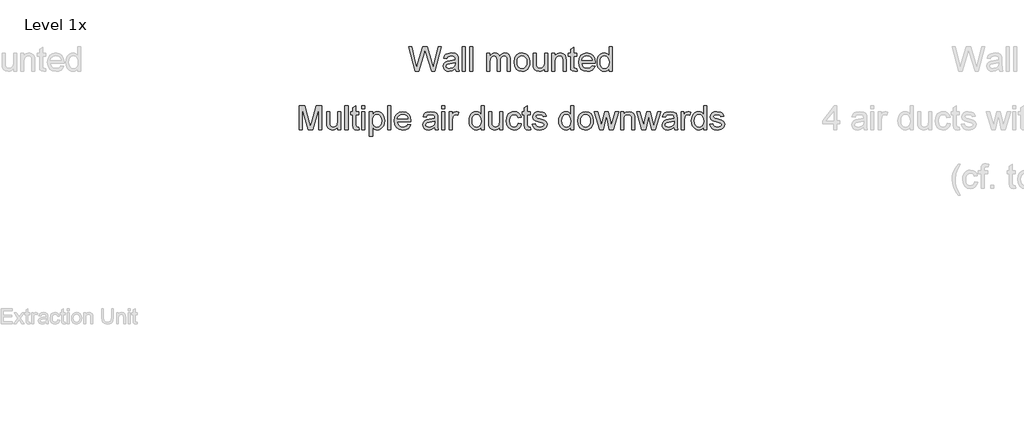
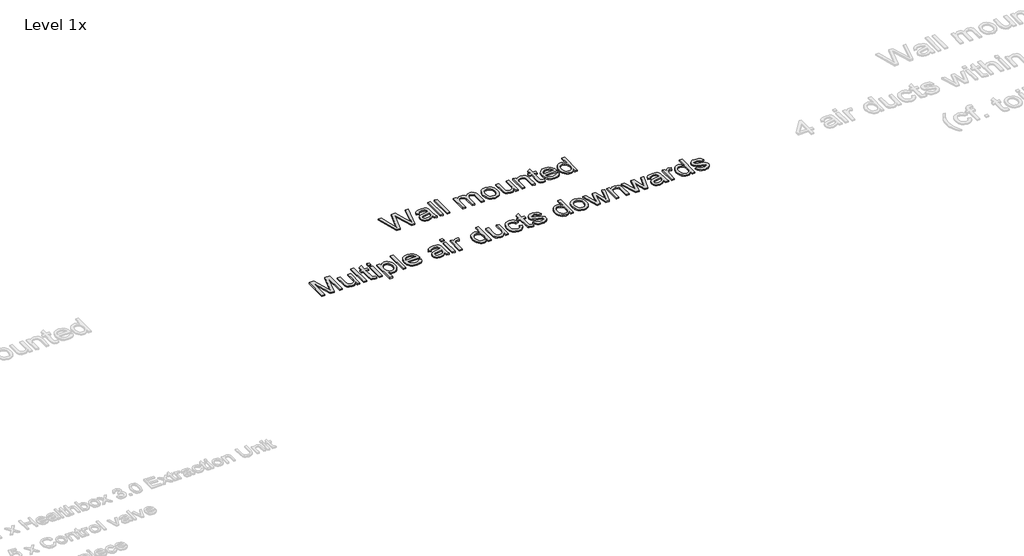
# One storey, part 7 of 7: 1 proxy.
"""IFC4 building model written with IfcOpenShell, lengths in millimetres."""

import ifcopenshell
import ifcopenshell.guid

model = None  # the IFC model being written
_history = None  # IfcOwnerHistory: only IFC2X3 demands one
_inside = {}  # id of a spatial element -> (the spatial element, [elements in it])
_under = {}  # id of a project, library or spatial element -> (it, [spatial elements below it])
_declared = {}  # id of a project -> (the project, [libraries it declares])
_typed = {}  # id of a type object -> (the type object, [elements of that type])
_made_of = {}  # id of a material, layer set ... -> (it, [elements and type objects made of it])


def new_model(schema):
    """Start an empty IFC model of exactly this schema.

    Asked for "IFC4X3", IfcOpenShell would pick the latest addendum, in which some entities
    have other attributes; the version numbers below select the first issue.
    IFC2X3 requires an IfcOwnerHistory on every rooted entity: one is made here for all.
    """
    global model, _history
    if schema == "IFC4X3":
        model = ifcopenshell.file(schema_version=(4, 3, 0, 0))
    else:
        model = ifcopenshell.file(schema=schema)
    _inside.clear()
    _under.clear()
    _declared.clear()
    _typed.clear()
    _made_of.clear()
    _history = None
    if model.schema == "IFC2X3":
        org = make("IfcOrganization", Name="unknown")
        user = make(
            "IfcPersonAndOrganization",
            ThePerson=make("IfcPerson", FamilyName="unknown"),
            TheOrganization=org,
        )
        app = make(
            "IfcApplication",
            ApplicationDeveloper=org,
            Version="unknown",
            ApplicationFullName="unknown",
            ApplicationIdentifier="unknown",
        )
        _history = make(
            "IfcOwnerHistory",
            OwningUser=user,
            OwningApplication=app,
            ChangeAction="ADDED",
            CreationDate=0,
        )
    return model


def make(cls, **values):
    """One entity of the class cls with the attributes given. An attribute that is None is left unset."""
    return model.create_entity(
        cls, **{name: value for name, value in values.items() if value is not None}
    )


def rooted(cls, **values):
    """An entity with a GlobalId (a new one), such as an element, a storey or a relation."""
    return make(cls, GlobalId=ifcopenshell.guid.new(), OwnerHistory=_history, **values)


def si_unit(unit_type, name, prefix=None):
    """IfcSIUnit, for example si_unit("LENGTHUNIT", "METRE", prefix="MILLI")."""
    return make("IfcSIUnit", UnitType=unit_type, Prefix=prefix, Name=name)


def assignment(units):
    """IfcUnitAssignment: the units of a project."""
    return None if units is None else make("IfcUnitAssignment", Units=units)


def point(xyz):
    """IfcCartesianPoint."""
    return None if xyz is None else make("IfcCartesianPoint", Coordinates=xyz)


def direction(xyz):
    """IfcDirection."""
    return None if xyz is None else make("IfcDirection", DirectionRatios=xyz)


def frame(location, z_axis=None, x_axis=None):
    """IfcAxis2Placement3D, a coordinate frame: its origin and axes. An axis left out is left unset."""
    return make(
        "IfcAxis2Placement3D",
        Location=point(location),
        Axis=direction(z_axis),
        RefDirection=direction(x_axis),
    )


def origin():
    """The frame at (0, 0, 0) with its axes left unset."""
    return frame((0.0, 0.0, 0.0))


def origin_with_axes():
    """The frame at (0, 0, 0) with the z axis (0, 0, 1) and the x axis (1, 0, 0) written out."""
    return frame((0.0, 0.0, 0.0), z_axis=(0.0, 0.0, 1.0), x_axis=(1.0, 0.0, 0.0))


def place(relative_to, where):
    """IfcLocalPlacement: puts the frame where relative to a parent placement (None: the world)."""
    return make(
        "IfcLocalPlacement", PlacementRelTo=relative_to, RelativePlacement=where
    )


def context(
    kind, dimensions, precision=None, world=None, true_north=None, identifier=None
):
    """IfcGeometricRepresentationContext, for example the 3D "Model" context."""
    return make(
        "IfcGeometricRepresentationContext",
        ContextIdentifier=identifier,
        ContextType=kind,
        CoordinateSpaceDimension=dimensions,
        Precision=precision,
        WorldCoordinateSystem=world,
        TrueNorth=true_north,
    )


def project(units=None, contexts=None):
    """IfcProject with its units and contexts."""
    return rooted(
        "IfcProject",
        Name="project",
        RepresentationContexts=contexts,
        UnitsInContext=assignment(units),
    )


def spatial(cls, under=None, at=None, **own):
    """A site, building, storey or space (cls), placed at a placement, below another one or the project."""
    s = rooted(cls, ObjectPlacement=at, **own)
    if under is not None:
        _under.setdefault(under.id(), (under, []))[1].append(s)
    return s


def polyline(points):
    """IfcPolyline through the points."""
    return make("IfcPolyline", Points=[point(p) for p in points])


def outline(outer, holes=None, kind="AREA"):
    """IfcArbitraryClosedProfileDef: a profile drawn as a closed curve; with holes, ...WithVoids."""
    if holes is None:
        return make("IfcArbitraryClosedProfileDef", ProfileType=kind, OuterCurve=outer)
    return make(
        "IfcArbitraryProfileDefWithVoids",
        ProfileType=kind,
        OuterCurve=outer,
        InnerCurves=holes,
    )


def extrude(swept, where, along, depth):
    """IfcExtrudedAreaSolid: the profile swept, set in the frame where, extruded along a direction by depth."""
    return make(
        "IfcExtrudedAreaSolid",
        SweptArea=swept,
        Position=where,
        ExtrudedDirection=direction(along),
        Depth=depth,
    )


def shape(context_of_items, identifier, shape_type, items):
    """IfcShapeRepresentation: the items that make up one representation, for example the "Body"."""
    return make(
        "IfcShapeRepresentation",
        ContextOfItems=context_of_items,
        RepresentationIdentifier=identifier,
        RepresentationType=shape_type,
        Items=items,
    )


def made_of(thing, what):
    """Note that an element or type object is made of a material, layer set ...; save() writes the relation."""
    if what is not None:
        _made_of.setdefault(what.id(), (what, []))[1].append(thing)
    return thing


def element(
    cls,
    number,
    at=None,
    inside=None,
    cuts=None,
    type_object=None,
    material=None,
    context=None,
    identifier="Body",
    shape_type=None,
    held_by="IfcProductDefinitionShape",
    body=None,
    shapes=None,
    **own,
):
    """One element of the class cls, such as IfcWall. Its Tag is "e" and its number.

    at: its placement. inside: the storey or other place that contains it. cuts: it is an
    opening in that element (IfcRelVoidsElement). A single representation is given by context,
    identifier, shape_type and body (its items); several are given by shapes. held_by: the class
    of the entity that holds the representations. save() writes the other relations.
    """
    e = rooted(cls, Tag="e%d" % number, ObjectPlacement=at, **own)
    if body is not None:
        shapes = [shape(context, identifier, shape_type, body)]
    if shapes is not None:
        e.Representation = make(held_by, Representations=shapes)
    if inside is not None:
        _inside.setdefault(inside.id(), (inside, []))[1].append(e)
    if cuts is not None:
        rooted(
            "IfcRelVoidsElement", RelatingBuildingElement=cuts, RelatedOpeningElement=e
        )
    if type_object is not None:
        _typed.setdefault(type_object.id(), (type_object, []))[1].append(e)
    return made_of(e, material)


def aggregate(whole, parts):
    """IfcRelAggregates: a whole, such as a stair, and the parts it consists of."""
    return rooted("IfcRelAggregates", RelatingObject=whole, RelatedObjects=parts)


def save(model, path):
    """Write the relations noted so far, then the file.

    IfcRelAggregates (storeys below a building ...), IfcRelContainedInSpatialStructure (elements
    in a storey), IfcRelDefinesByType, IfcRelAssociatesMaterial and IfcRelDeclares: one each for
    every whole, place, type object, material and project.
    """
    for whole, parts in _under.values():
        aggregate(whole, parts)
    for where, things in _inside.values():
        rooted(
            "IfcRelContainedInSpatialStructure",
            RelatedElements=things,
            RelatingStructure=where,
        )
    for kind, things in _typed.values():
        rooted("IfcRelDefinesByType", RelatedObjects=things, RelatingType=kind)
    for what, things in _made_of.values():
        rooted("IfcRelAssociatesMaterial", RelatedObjects=things, RelatingMaterial=what)
    for by, libraries in _declared.values():
        rooted("IfcRelDeclares", RelatingContext=by, RelatedDefinitions=libraries)
    model.write(path)


model = new_model("IFC4")

# Units and contexts
model_context = context("Model", 3, world=origin())
ifc_project = project(units=[si_unit("LENGTHUNIT", "METRE", prefix="MILLI")], contexts=[model_context])

# Site, building, storey
site = spatial("IfcSite", under=ifc_project)
building = spatial("IfcBuilding", under=site)
storey = spatial("IfcBuildingStorey", under=building, Name="Level 1x", Elevation=0.0)

# Proxy
placement = place(None, origin())
element("IfcBuildingElementProxy", 1, Name="190mm Arial", ObjectType="190mm Arial", at=placement, inside=storey, context=model_context, shape_type="SweptSolid", body=[
    extrude(outline(polyline([(-7130.0854469, 313.1270961), (-7182.1358442, 503.9940853), (-7157.5318963, 503.9940853), (-7127.3361422, 378.5512301), (-7118.016465, 339.8279713), (-7108.0444103, 374.077785), (-7070.2065209, 503.9940853), (-7034.7451491, 503.9940853), (-7007.2521013, 409.8187471), (-6986.7954098, 339.8279713), (-6977.7553229, 377.4328688), (-6947.2799785, 503.9940853), (-6922.6760306, 503.9940853), (-6974.7730262, 313.1270961), (-7000.2623434, 313.1270961), (-7046.0219585, 460.377996), (-7052.4059374, 480.9278842), (-7059.5820888, 456.1841412), (-7101.2876444, 313.1270961), (-7130.0854469, 313.1270961)])), origin_with_axes(), (0.0, 0.0, 1.0), 10.0),
    extrude(outline(polyline([(-6812.3310524, 331.0208763), (-6835.4671511, 314.8512363), (-6861.0263659, 310.1447993), (-6880.9646503, 312.9756513), (-6895.6722659, 321.4682072), (-6904.7414768, 334.3643105), (-6907.7645471, 350.4058049), (-6903.1979052, 369.2781512), (-6891.1988208, 382.9780767), (-6874.4932994, 390.8066056), (-6853.8502144, 394.3946813), (-6812.4708476, 402.5959973), (-6812.3310524, 407.9082133), (-6813.9736455, 418.5559445), (-6818.9014249, 425.5224032), (-6829.9219432, 430.6948241), (-6845.2761114, 432.4189644), (-6869.4140754, 427.8290233), (-6876.1824909, 421.4625188), (-6880.9238767, 411.5428874), (-6904.7822504, 414.5251841), (-6894.4607079, 437.8243771), (-6885.6652625, 445.6645556), (-6873.6778277, 451.4777043), (-6842.2006179, 456.277338), (-6813.2863193, 452.0368849), (-6796.953585, 441.3891537), (-6789.6376384, 425.1962145), (-6788.4726788, 404.3201376), (-6788.4726788, 374.6369656), (-6787.2611207, 333.1877012), (-6782.5080854, 313.1270961), (-6806.366459, 313.1270961), (-6812.3310524, 331.0208763)]), holes=[polyline([(-6812.3310524, 378.7376236), (-6850.8213193, 371.421677), (-6871.3479084, 367.554011), (-6880.6442864, 361.2632288), (-6883.9061734, 352.0833468), (-6882.1296099, 344.9887425), (-6876.7999195, 339.1755939), (-6868.0335982, 335.2962782), (-6855.9471418, 334.003173), (-6831.8091778, 339.7114753), (-6816.2453169, 353.5278968), (-6812.4708476, 371.9808576), (-6812.3310524, 378.7376236)])]), origin_with_axes(), (0.0, 0.0, 1.0), 10.0),
    extrude(outline(polyline([(-6755.667415, 313.1270961), (-6755.667415, 503.9940853), (-6731.8090413, 503.9940853), (-6731.8090413, 313.1270961), (-6755.667415, 313.1270961)])), origin_with_axes(), (0.0, 0.0, 1.0), 10.0),
    extrude(outline(polyline([(-6696.0214808, 313.1270961), (-6696.0214808, 503.9940853), (-6672.1631072, 503.9940853), (-6672.1631072, 313.1270961), (-6696.0214808, 313.1270961)])), origin_with_axes(), (0.0, 0.0, 1.0), 10.0),
    extrude(outline(polyline([(-6561.818129, 313.1270961), (-6561.818129, 453.2950413), (-6537.9597553, 453.2950413), (-6537.9597553, 430.2288402), (-6521.5571234, 449.1244858), (-6510.5948531, 454.489125), (-6498.211332, 456.277338), (-6484.9424416, 454.4541762), (-6474.30636, 448.9846906), (-6466.3613352, 440.2300188), (-6461.1656151, 428.5512983), (-6452.4691913, 440.6814407), (-6442.5495599, 449.3458281), (-6431.4067208, 454.5444605), (-6419.0406741, 456.277338), (-6401.1061203, 453.3940629), (-6387.8430547, 444.7442375), (-6379.6475635, 430.0948699), (-6376.9157331, 409.2129681), (-6376.9157331, 313.1270961), (-6400.7741068, 313.1270961), (-6400.7741068, 398.9613232), (-6402.9875301, 418.8821332), (-6411.0024525, 428.6910935), (-6424.6324805, 432.4189644), (-6437.5577078, 430.0307971), (-6448.0947678, 422.8662952), (-6455.1020001, 410.4361757), (-6457.4377442, 392.2511556), (-6457.4377442, 313.1270961), (-6481.2961179, 313.1270961), (-6481.2961179, 401.6174312), (-6482.6765951, 415.1076639), (-6486.8180266, 424.7302307), (-6494.1048493, 430.4967809), (-6504.9214996, 432.4189644), (-6522.5822879, 427.2931419), (-6529.5720458, 420.9790606), (-6534.3250812, 412.2884616), (-6537.9597553, 383.8168477), (-6537.9597553, 313.1270961), (-6561.818129, 313.1270961)])), origin_with_axes(), (0.0, 0.0, 1.0), 10.0),
    extrude(outline(polyline([(-6347.0927661, 383.2110687), (-6341.9319948, 417.0065482), (-6335.4810307, 430.1385558), (-6326.449681, 440.7600755), (-6307.3210436, 452.3980224), (-6284.4179368, 456.277338), (-6259.3538299, 451.5534266), (-6239.3339983, 437.3816925), (-6226.2107278, 414.8804968), (-6221.8363043, 385.1682009), (-6223.7701374, 361.0651857), (-6229.5716364, 342.7170712), (-6239.0718824, 328.9763721), (-6252.1019561, 318.6956032), (-6267.578445, 312.2825003), (-6284.4179368, 310.1447993), (-6309.7849332, 314.8512363), (-6329.7814656, 328.9705473), (-6342.764941, 351.9435516), (-6347.0927661, 383.2110687)]), holes=[polyline([(-6323.2343924, 383.2576671), (-6320.473438, 361.6651399), (-6312.1905749, 346.2818477), (-6299.7255066, 337.0728417), (-6284.4179368, 334.003173), (-6269.1802646, 337.0903161), (-6256.7384955, 346.3517453), (-6248.4556324, 361.9389054), (-6245.694678, 384.0032412), (-6248.4731068, 404.9666902), (-6256.8083931, 420.1402896), (-6269.2676365, 429.3492957), (-6284.4179368, 432.4189644), (-6299.7255066, 429.3609453), (-6312.1905749, 420.186888), (-6320.473438, 404.8385446), (-6323.2343924, 383.2576671)])]), origin_with_axes(), (0.0, 0.0, 1.0), 10.0),
    extrude(outline(polyline([(-6105.5267327, 313.1270961), (-6105.5267327, 337.2184616), (-6114.1590838, 325.3737344), (-6124.2126856, 316.9132149), (-6135.6875381, 311.8369032), (-6148.5836415, 310.1447993), (-6171.0207643, 314.8978347), (-6186.4914285, 326.8270216), (-6193.5976824, 344.3946131), (-6194.995634, 366.5754449), (-6194.995634, 453.2950413), (-6171.1372603, 453.2950413), (-6171.1372603, 377.8056559), (-6169.6927103, 353.4812984), (-6160.2565372, 339.1988931), (-6142.4792529, 334.003173), (-6122.5584428, 339.315389), (-6114.6192428, 345.5886967), (-6109.3943988, 353.7841879), (-6105.5267327, 380.3685671), (-6105.5267327, 453.2950413), (-6081.6683591, 453.2950413), (-6081.6683591, 313.1270961), (-6105.5267327, 313.1270961)])), origin_with_axes(), (0.0, 0.0, 1.0), 10.0),
    extrude(outline(polyline([(-6048.8630953, 313.1270961), (-6048.8630953, 453.2950413), (-6025.0047216, 453.2950413), (-6025.0047216, 433.7237192), (-6016.7160337, 443.5909274), (-6006.7614535, 450.6389333), (-5981.8546162, 456.277338), (-5959.3242965, 451.7339954), (-5943.9468291, 439.8048085), (-5936.7939768, 422.2605162), (-5935.5358204, 399.1943151), (-5935.5358204, 313.1270961), (-5959.3941941, 313.1270961), (-5959.3941941, 395.9790265), (-5962.1434988, 417.0880953), (-5971.8592623, 428.2484088), (-5988.238595, 432.4189644), (-6002.2122861, 430.0773955), (-6014.1239985, 423.0526888), (-6022.2845409, 409.4809088), (-6025.0047216, 387.4981202), (-6025.0047216, 313.1270961), (-6048.8630953, 313.1270961)])), origin_with_axes(), (0.0, 0.0, 1.0), 10.0),
    extrude(outline(polyline([(-5852.0315126, 333.0246069), (-5849.0492159, 312.4281203), (-5866.8963978, 310.1447993), (-5886.8871054, 314.1056622), (-5896.85916, 324.4971022), (-5899.7482599, 351.5707645), (-5899.7482599, 429.4366676), (-5917.6420402, 429.4366676), (-5917.6420402, 453.2950413), (-5899.7482599, 453.2950413), (-5899.7482599, 487.3584615), (-5875.8898863, 501.3845757), (-5875.8898863, 453.2950413), (-5852.0315126, 453.2950413), (-5852.0315126, 429.4366676), (-5875.8898863, 429.4366676), (-5875.8898863, 352.2697403), (-5874.6317298, 339.9677664), (-5870.5543711, 335.6108173), (-5862.4229527, 334.003173), (-5852.0315126, 333.0246069)])), origin_with_axes(), (0.0, 0.0, 1.0), 10.0),
    extrude(outline(polyline([(-5730.0369379, 354.87925), (-5706.6445481, 351.8969533), (-5715.0730312, 334.2711137), (-5728.5224904, 321.0954201), (-5746.6900361, 312.8824545), (-5769.272779, 310.1447993), (-5797.2667594, 314.8687107), (-5818.8068633, 329.0404449), (-5832.5417376, 351.7396837), (-5837.1200291, 382.046109), (-5832.4951392, 413.3718741), (-5818.6204698, 436.7992126), (-5797.3716058, 451.4078067), (-5770.6241322, 456.277338), (-5744.7096047, 451.4194563), (-5724.0024469, 436.845811), (-5710.4248422, 413.4650708), (-5705.8989739, 382.1859042), (-5706.0387691, 375.7553269), (-5813.2616554, 375.7553269), (-5809.1318734, 357.8964955), (-5799.5384307, 344.7674002), (-5785.6928853, 336.6942298), (-5768.8067951, 334.003173), (-5745.4144053, 338.9892003), (-5736.7238063, 345.4547264), (-5730.0369379, 354.87925)]), holes=[polyline([(-5813.2616554, 399.6137006), (-5729.7573476, 399.6137006), (-5732.9842858, 412.218564), (-5739.3100167, 421.2353517), (-5753.219635, 429.6230612), (-5770.7173289, 432.4189644), (-5786.7995969, 430.1880666), (-5800.0976113, 423.4953734), (-5809.3415662, 413.0631597), (-5813.2616554, 399.6137006)])]), origin_with_axes(), (0.0, 0.0, 1.0), 10.0),
    extrude(outline(polyline([(-5595.5539957, 313.1270961), (-5595.5539957, 335.6341165), (-5602.692286, 324.4825403), (-5611.339199, 316.5171286), (-5621.4947348, 311.7378817), (-5633.1588933, 310.1447993), (-5648.5829591, 312.4514195), (-5662.7022701, 319.3712798), (-5674.6547561, 330.4209221), (-5683.578347, 345.1168881), (-5689.1352045, 362.8650484), (-5690.9874904, 383.0712735), (-5689.2808245, 403.0270324), (-5684.1608268, 421.0489582), (-5675.6333222, 436.1118864), (-5663.7041354, 447.1906527), (-5649.2761101, 454.0056667), (-5633.2520901, 456.277338), (-5621.5791944, 454.6522193), (-5611.2576518, 449.7768632), (-5595.5539957, 432.8849482), (-5595.5539957, 503.9940853), (-5571.6956221, 503.9940853), (-5571.6956221, 313.1270961), (-5595.5539957, 313.1270961)]), holes=[polyline([(-5667.1291167, 383.1644703), (-5664.4380599, 361.5835928), (-5656.3648896, 346.2352493), (-5644.6337459, 337.0611921), (-5630.9687692, 334.003173), (-5617.3096172, 336.9213969), (-5605.8755383, 345.6760687), (-5598.1343814, 360.4302827), (-5595.5539957, 381.3471332), (-5598.1809798, 404.2152912), (-5606.0619318, 420.0703921), (-5617.7872507, 429.3318213), (-5631.9473353, 432.4189644), (-5645.7521071, 429.454142), (-5657.0638653, 420.5596751), (-5664.6128039, 405.2812293), (-5667.1291167, 383.1644703)])]), origin_with_axes(), (0.0, 0.0, 1.0), 10.0),
    extrude(outline(polyline([(-8045.510741, -150.3772118), (-8045.510741, 40.4897775), (-8004.4575629, 40.4897775), (-7965.4081154, -94.039763), (-7957.5329881, -122.1385898), (-7949.0054835, -91.7098437), (-7910.6084134, 40.4897775), (-7869.5552353, 40.4897775), (-7869.5552353, -150.3772118), (-7893.4136089, -150.3772118), (-7893.4136089, 16.6314039), (-7941.3633482, -150.3772118), (-7973.7026281, -150.3772118), (-8021.6523674, 16.6314039), (-8021.6523674, -150.3772118), (-8045.510741, -150.3772118)])), origin_with_axes(), (0.0, 0.0, 1.0), 10.0),
    extrude(outline(polyline([(-7741.3164768, -150.3772118), (-7741.3164768, -126.2858462), (-7749.9488279, -138.1305734), (-7760.0024297, -146.5910929), (-7771.4772822, -151.6674046), (-7784.3733856, -153.3595085), (-7806.8105084, -148.6064731), (-7822.2811726, -136.6772863), (-7829.3874265, -119.1096947), (-7830.7853781, -96.928863), (-7830.7853781, -10.2092665), (-7806.9270044, -10.2092665), (-7806.9270044, -85.6986519), (-7805.4824544, -110.0230094), (-7796.0462813, -124.3054148), (-7778.268997, -129.5011348), (-7758.3481869, -124.1889188), (-7750.4089869, -117.9156111), (-7745.1841429, -109.7201199), (-7741.3164768, -83.1357407), (-7741.3164768, -10.2092665), (-7717.4581032, -10.2092665), (-7717.4581032, -150.3772118), (-7741.3164768, -150.3772118)])), origin_with_axes(), (0.0, 0.0, 1.0), 10.0),
    extrude(outline(polyline([(-7684.6528394, -150.3772118), (-7684.6528394, 40.4897775), (-7660.7944657, 40.4897775), (-7660.7944657, -150.3772118), (-7684.6528394, -150.3772118)])), origin_with_axes(), (0.0, 0.0, 1.0), 10.0),
    extrude(outline(polyline([(-7574.3078612, -130.4797009), (-7571.3255645, -151.0761876), (-7589.1727464, -153.3595085), (-7609.163454, -149.3986457), (-7619.1355086, -139.0072056), (-7622.0246085, -111.9335433), (-7622.0246085, -34.0676402), (-7639.9183888, -34.0676402), (-7639.9183888, -10.2092665), (-7622.0246085, -10.2092665), (-7622.0246085, 23.8541537), (-7598.1662349, 37.8802679), (-7598.1662349, -10.2092665), (-7574.3078612, -10.2092665), (-7574.3078612, -34.0676402), (-7598.1662349, -34.0676402), (-7598.1662349, -111.2345675), (-7596.9080785, -123.5365414), (-7592.8307197, -127.8934905), (-7584.6993013, -129.5011348), (-7574.3078612, -130.4797009)])), origin_with_axes(), (0.0, 0.0, 1.0), 10.0),
    extrude(outline(polyline([(-7550.4494876, -150.3772118), (-7550.4494876, -10.2092665), (-7526.5911139, -10.2092665), (-7526.5911139, -150.3772118), (-7550.4494876, -150.3772118)])), origin_with_axes(), (0.0, 0.0, 1.0), 10.0),
    extrude(outline(polyline([(-7550.4494876, 16.6314039), (-7550.4494876, 40.4897775), (-7526.5911139, 40.4897775), (-7526.5911139, 16.6314039), (-7550.4494876, 16.6314039)])), origin_with_axes(), (0.0, 0.0, 1.0), 10.0),
    extrude(outline(polyline([(-7490.8035534, -204.0585525), (-7490.8035534, -10.2092665), (-7466.9451797, -10.2092665), (-7466.9451797, -33.6016563), (-7450.4493511, -13.8206414), (-7440.2909029, -8.8753877), (-7428.1753225, -7.2269698), (-7412.0406314, -9.5335899), (-7397.93297, -16.4534502), (-7386.4464678, -27.5671653), (-7378.1752543, -42.4553497), (-7373.1775774, -60.0345908), (-7371.5116851, -79.2214763), (-7373.3930949, -99.6257445), (-7379.0373245, -117.8748375), (-7388.2638049, -133.0426121), (-7400.8919675, -144.2029256), (-7415.5995831, -151.0703628), (-7431.0644225, -153.3595085), (-7442.0325176, -151.8275865), (-7451.8240035, -147.2318207), (-7466.9451797, -131.7378573), (-7466.9451797, -204.0585525), (-7490.8035534, -204.0585525)]), holes=[polyline([(-7466.9451797, -81.4116004), (-7464.3647941, -102.8002596), (-7456.6236372, -117.7583415), (-7445.2012079, -126.5654365), (-7431.5770047, -129.5011348), (-7417.7314593, -126.4605901), (-7406.01779, -117.338956), (-7398.0319916, -101.8333431), (-7395.3700588, -79.6408617), (-7397.9679188, -58.3686985), (-7405.7614989, -43.2009238), (-7417.1664538, -34.1142386), (-7430.5984386, -31.0853435), (-7444.0828466, -34.3064569), (-7455.9246614, -43.9697972), (-7464.1900502, -59.7724749), (-7466.9451797, -81.4116004)])]), origin_with_axes(), (0.0, 0.0, 1.0), 10.0),
    extrude(outline(polyline([(-7344.6710147, -150.3772118), (-7344.6710147, 40.4897775), (-7320.8126411, 40.4897775), (-7320.8126411, -150.3772118), (-7344.6710147, -150.3772118)])), origin_with_axes(), (0.0, 0.0, 1.0), 10.0),
    extrude(outline(polyline([(-7186.8888796, -108.6250579), (-7163.4964898, -111.6073546), (-7171.9249728, -129.2331941), (-7185.374432, -142.4088877), (-7203.5419778, -150.6218533), (-7226.1247206, -153.3595085), (-7254.118701, -148.6355971), (-7275.658805, -134.4638629), (-7289.3936793, -111.7646241), (-7293.9719707, -81.4581988), (-7289.3470809, -50.1324338), (-7275.4724114, -26.7050952), (-7254.2235474, -12.0965011), (-7227.4760738, -7.2269698), (-7201.5615464, -12.0848515), (-7180.8543886, -26.6584968), (-7167.2767838, -50.039237), (-7162.7509156, -81.3184036), (-7162.8907107, -87.7489809), (-7270.113597, -87.7489809), (-7265.9838151, -105.6078124), (-7256.3903724, -118.7369076), (-7242.5448269, -126.810078), (-7225.6587367, -129.5011348), (-7202.2663469, -124.5151075), (-7193.575748, -118.0495814), (-7186.8888796, -108.6250579)]), holes=[polyline([(-7270.113597, -63.8906072), (-7186.6092892, -63.8906072), (-7189.8362275, -51.2857438), (-7196.1619584, -42.2689561), (-7210.0715766, -33.8812466), (-7227.5692706, -31.0853435), (-7243.6515386, -33.3162412), (-7256.949553, -40.0089344), (-7266.1935078, -50.4411481), (-7270.113597, -63.8906072)])]), origin_with_axes(), (0.0, 0.0, 1.0), 10.0),
    extrude(outline(polyline([(-6974.866223, -132.4834315), (-6998.0023217, -148.6530715), (-7023.5615364, -153.3595085), (-7043.4998209, -150.5286565), (-7058.2074365, -142.0361007), (-7067.2766473, -129.1399973), (-7070.2997176, -113.0985029), (-7065.7330758, -94.2261566), (-7053.7339914, -80.5262311), (-7037.02847, -72.6977022), (-7016.385385, -69.1096265), (-6975.0060182, -60.9083105), (-6974.866223, -55.5960945), (-6976.5088161, -44.9483633), (-6981.4365954, -37.9819046), (-6992.4571137, -32.8094837), (-7007.8112819, -31.0853435), (-7031.9492459, -35.6752845), (-7038.7176615, -42.041789), (-7043.4590473, -51.9614204), (-7067.3174209, -48.9791237), (-7056.9958784, -25.6799307), (-7048.2004331, -17.8397522), (-7036.2129982, -12.0266036), (-7004.7357885, -7.2269698), (-6975.8214899, -11.4674229), (-6959.4887556, -22.1151541), (-6952.172809, -38.3080933), (-6951.0078493, -59.1841702), (-6951.0078493, -88.8673422), (-6949.7962913, -130.3166066), (-6945.0432559, -150.3772118), (-6968.9016296, -150.3772118), (-6974.866223, -132.4834315)]), holes=[polyline([(-6974.866223, -84.7666842), (-7013.3564899, -92.0826308), (-7033.8830789, -95.9502968), (-7043.179457, -102.241079), (-7046.441344, -111.420961), (-7044.6647805, -118.5155653), (-7039.3350901, -124.328714), (-7030.5687687, -128.2080296), (-7018.4823123, -129.5011348), (-6994.3443484, -123.7928325), (-6978.7804874, -109.976411), (-6975.0060182, -91.5234502), (-6974.866223, -84.7666842)])]), origin_with_axes(), (0.0, 0.0, 1.0), 10.0),
    extrude(outline(polyline([(-6918.2025856, -150.3772118), (-6918.2025856, -10.2092665), (-6894.3442119, -10.2092665), (-6894.3442119, -150.3772118), (-6918.2025856, -150.3772118)])), origin_with_axes(), (0.0, 0.0, 1.0), 10.0),
    extrude(outline(polyline([(-6918.2025856, 16.6314039), (-6918.2025856, 40.4897775), (-6894.3442119, 40.4897775), (-6894.3442119, 16.6314039), (-6918.2025856, 16.6314039)])), origin_with_axes(), (0.0, 0.0, 1.0), 10.0),
    extrude(outline(polyline([(-6858.5566514, -150.3772118), (-6858.5566514, -10.2092665), (-6837.6805744, -10.2092665), (-6837.6805744, -30.9455483), (-6822.8622877, -11.84021), (-6807.9508041, -7.2269698), (-6796.0682157, -9.067606), (-6783.9992337, -14.5895148), (-6791.9675577, -35.978174), (-6808.7429767, -31.0853435), (-6822.2332095, -35.7917804), (-6830.8306117, -48.8393285), (-6834.6982777, -76.7051634), (-6834.6982777, -150.3772118), (-6858.5566514, -150.3772118)])), origin_with_axes(), (0.0, 0.0, 1.0), 10.0),
    extrude(outline(polyline([(-6608.043728, -150.3772118), (-6608.043728, -127.8701913), (-6615.1820182, -139.0217676), (-6623.8289312, -146.9871792), (-6633.984467, -151.7664261), (-6645.6486255, -153.3595085), (-6661.0726913, -151.0528884), (-6675.1920023, -144.133028), (-6687.1444883, -133.0833857), (-6696.0680792, -118.3874197), (-6701.6249368, -100.6392594), (-6703.4772226, -80.4330343), (-6701.7705567, -60.4772755), (-6696.6505591, -42.4553497), (-6688.1230544, -27.3924214), (-6676.1938676, -16.3136551), (-6661.7658423, -9.4986411), (-6645.7418223, -7.2269698), (-6634.0689266, -8.8520885), (-6623.7473841, -13.7274447), (-6608.043728, -30.6193596), (-6608.043728, 40.4897775), (-6584.1853543, 40.4897775), (-6584.1853543, -150.3772118), (-6608.043728, -150.3772118)]), holes=[polyline([(-6679.6188489, -80.3398375), (-6676.9277922, -101.9207151), (-6668.8546218, -117.2690585), (-6657.1234781, -126.4431157), (-6643.4585014, -129.5011348), (-6629.7993495, -126.5829109), (-6618.3652705, -117.8282391), (-6610.6241136, -103.0740251), (-6608.043728, -82.1571746), (-6610.670712, -59.2890166), (-6618.551664, -43.4339158), (-6630.2769829, -34.1724865), (-6644.4370675, -31.0853435), (-6658.2418393, -34.0501658), (-6669.5535976, -42.9446327), (-6677.1025361, -58.2230785), (-6679.6188489, -80.3398375)])]), origin_with_axes(), (0.0, 0.0, 1.0), 10.0),
    extrude(outline(polyline([(-6458.9288926, -150.3772118), (-6458.9288926, -126.2858462), (-6467.5612436, -138.1305734), (-6477.6148454, -146.5910929), (-6489.089698, -151.6674046), (-6501.9858013, -153.3595085), (-6524.4229242, -148.6064731), (-6539.8935884, -136.6772863), (-6546.9998422, -119.1096947), (-6548.3977938, -96.928863), (-6548.3977938, -10.2092665), (-6524.5394202, -10.2092665), (-6524.5394202, -85.6986519), (-6523.0948702, -110.0230094), (-6513.658697, -124.3054148), (-6495.8814127, -129.5011348), (-6475.9606027, -124.1889188), (-6468.0214027, -117.9156111), (-6462.7965586, -109.7201199), (-6458.9288926, -83.1357407), (-6458.9288926, -10.2092665), (-6435.0705189, -10.2092665), (-6435.0705189, -150.3772118), (-6458.9288926, -150.3772118)])), origin_with_axes(), (0.0, 0.0, 1.0), 10.0),
    extrude(outline(polyline([(-6312.7963539, -99.6781677), (-6288.9379803, -102.6604644), (-6295.5898999, -123.8802045), (-6308.0899169, -139.9158741), (-6325.2614222, -149.9985999), (-6345.9278064, -153.3595085), (-6371.3064524, -148.6705459), (-6391.1515401, -134.6036581), (-6403.9602714, -111.7762737), (-6408.2298486, -80.8058214), (-6406.4066867, -59.5744317), (-6400.9372011, -41.173894), (-6391.7340199, -26.3148337), (-6378.709771, -15.7078761), (-6363.1284357, -9.3471964), (-6346.2539951, -7.2269698), (-6326.0943683, -10.1393689), (-6309.9771516, -18.8765663), (-6298.414927, -32.9725781), (-6291.920277, -51.9614204), (-6315.7786506, -54.9437171), (-6320.1064757, -44.5348026), (-6326.8457673, -37.0732361), (-6335.6237383, -32.5823166), (-6346.0676016, -31.0853435), (-6361.4858425, -34.0326914), (-6373.7237437, -42.8747351), (-6381.7095421, -58.0891082), (-6384.3714749, -80.153444), (-6381.7677901, -102.5148445), (-6373.9567356, -117.7816407), (-6361.9401768, -126.5712613), (-6346.719979, -129.5011348), (-6334.3655819, -127.6721482), (-6324.2362577, -122.1851882), (-6316.8678879, -112.9004598), (-6312.7963539, -99.6781677)])), origin_with_axes(), (0.0, 0.0, 1.0), 10.0),
    extrude(outline(polyline([(-6217.3628593, -130.4797009), (-6214.3805626, -151.0761876), (-6232.2277444, -153.3595085), (-6252.218452, -149.3986457), (-6262.1905067, -139.0072056), (-6265.0796066, -111.9335433), (-6265.0796066, -34.0676402), (-6282.9733868, -34.0676402), (-6282.9733868, -10.2092665), (-6265.0796066, -10.2092665), (-6265.0796066, 23.8541537), (-6241.2212329, 37.8802679), (-6241.2212329, -10.2092665), (-6217.3628593, -10.2092665), (-6217.3628593, -34.0676402), (-6241.2212329, -34.0676402), (-6241.2212329, -111.2345675), (-6239.9630765, -123.5365414), (-6235.8857177, -127.8934905), (-6227.7542994, -129.5011348), (-6217.3628593, -130.4797009)])), origin_with_axes(), (0.0, 0.0, 1.0), 10.0),
    extrude(outline(polyline([(-6202.4513757, -108.6250579), (-6178.5930021, -105.6427611), (-6174.8301824, -115.8478077), (-6167.5491846, -123.3501478), (-6156.7034102, -127.9633881), (-6142.246261, -129.5011348), (-6127.9638556, -128.0915336), (-6117.9219034, -123.8627301), (-6111.9806092, -117.7350423), (-6110.0001778, -110.6287885), (-6111.9922588, -104.5476991), (-6117.9685018, -99.9111597), (-6142.5258513, -93.1077953), (-6178.4532069, -81.4348996), (-6194.1335638, -67.8048717), (-6199.469079, -48.5597382), (-6195.1820275, -30.7824539), (-6183.4858326, -17.1990244), (-6168.318058, -10.1393689), (-6147.7914689, -7.2269698), (-6118.7606744, -11.9101076), (-6107.9032504, -17.4203667), (-6100.3077135, -24.5848686), (-6092.1063976, -45.996827), (-6115.9647712, -48.9791237), (-6118.9761919, -41.4709587), (-6124.9349605, -35.8150796), (-6145.9275335, -31.0853435), (-6168.7607426, -35.6053869), (-6173.8982147, -40.4982174), (-6175.6107054, -46.1366222), (-6172.7682038, -53.0797817), (-6163.8679121, -58.3453993), (-6143.3180238, -63.4246234), (-6108.2993367, -74.6548344), (-6092.0365, -87.3761938), (-6087.6154781, -96.7308198), (-6086.1418041, -108.1124756), (-6087.8717692, -119.8785681), (-6093.0616645, -130.9456848), (-6101.5134467, -140.4459307), (-6113.0290729, -147.511411), (-6126.9386911, -151.8974841), (-6142.5724497, -153.3595085), (-6166.6288665, -150.5403061), (-6184.1848084, -142.082699), (-6195.9043025, -128.079884), (-6202.4513757, -108.6250579)])), origin_with_axes(), (0.0, 0.0, 1.0), 10.0),
    extrude(outline(polyline([(-5898.2571116, -150.3772118), (-5898.2571116, -127.8701913), (-5905.3954018, -139.0217676), (-5914.0423148, -146.9871792), (-5924.1978506, -151.7664261), (-5935.8620091, -153.3595085), (-5951.2860749, -151.0528884), (-5965.4053859, -144.133028), (-5977.3578719, -133.0833857), (-5986.2814628, -118.3874197), (-5991.8383204, -100.6392594), (-5993.6906062, -80.4330343), (-5991.9839403, -60.4772755), (-5986.8639427, -42.4553497), (-5978.336438, -27.3924214), (-5966.4072512, -16.3136551), (-5951.9792259, -9.4986411), (-5935.9552059, -7.2269698), (-5924.2823102, -8.8520885), (-5913.9607677, -13.7274447), (-5898.2571116, -30.6193596), (-5898.2571116, 40.4897775), (-5874.3987379, 40.4897775), (-5874.3987379, -150.3772118), (-5898.2571116, -150.3772118)]), holes=[polyline([(-5969.8322325, -80.3398375), (-5967.1411758, -101.9207151), (-5959.0680054, -117.2690585), (-5947.3368617, -126.4431157), (-5933.671885, -129.5011348), (-5920.0127331, -126.5829109), (-5908.5786541, -117.8282391), (-5900.8374972, -103.0740251), (-5898.2571116, -82.1571746), (-5900.8840956, -59.2890166), (-5908.7650476, -43.4339158), (-5920.4903665, -34.1724865), (-5934.6504511, -31.0853435), (-5948.4552229, -34.0501658), (-5959.7669812, -42.9446327), (-5967.3159197, -58.2230785), (-5969.8322325, -80.3398375)])]), origin_with_axes(), (0.0, 0.0, 1.0), 10.0),
    extrude(outline(polyline([(-5844.5757708, -80.2932391), (-5839.4149996, -46.4977596), (-5832.9640355, -33.365752), (-5823.9326858, -22.7442324), (-5804.8040483, -11.1062854), (-5781.9009416, -7.2269698), (-5756.8368347, -11.9508812), (-5736.8170031, -26.1226153), (-5723.6937326, -48.623811), (-5719.3193091, -78.3361069), (-5721.2531421, -102.4391221), (-5727.0546412, -120.7872366), (-5736.5548872, -134.5279357), (-5749.5849609, -144.8087046), (-5765.0614498, -151.2218075), (-5781.9009416, -153.3595085), (-5807.267938, -148.6530715), (-5827.2644704, -134.5337605), (-5840.2479457, -111.5607562), (-5844.5757708, -80.2932391)]), holes=[polyline([(-5820.7173972, -80.2466407), (-5817.9564428, -101.8391679), (-5809.6735797, -117.2224601), (-5797.2085114, -126.4314661), (-5781.9009416, -129.5011348), (-5766.6632693, -126.4139917), (-5754.2215003, -117.1525625), (-5745.9386371, -101.5654024), (-5743.1776828, -79.5010666), (-5745.9561115, -58.5376176), (-5754.2913978, -43.3640182), (-5766.7506413, -34.1550121), (-5781.9009416, -31.0853435), (-5797.2085114, -34.1433625), (-5809.6735797, -43.3174198), (-5817.9564428, -58.6657632), (-5820.7173972, -80.2466407)])]), origin_with_axes(), (0.0, 0.0, 1.0), 10.0),
    extrude(outline(polyline([(-5669.2260441, -150.3772118), (-5711.8635673, -10.2092665), (-5687.073226, -10.2092665), (-5662.8886636, -91.989434), (-5655.6659138, -121.2066221), (-5649.7479187, -93.0611969), (-5630.5027853, -10.2092665), (-5602.0777698, -10.2092665), (-5582.9258331, -92.828205), (-5577.6602155, -118.3175222), (-5570.111277, -91.4302534), (-5545.8801162, -10.2092665), (-5520.9965781, -10.2092665), (-5563.96029, -150.3772118), (-5592.804691, -150.3772118), (-5611.1178567, -68.1776588), (-5616.4300727, -42.5485464), (-5640.0554544, -150.3772118), (-5669.2260441, -150.3772118)])), origin_with_axes(), (0.0, 0.0, 1.0), 10.0),
    extrude(outline(polyline([(-5504.5939462, -150.3772118), (-5504.5939462, -10.2092665), (-5480.7355725, -10.2092665), (-5480.7355725, -29.7805886), (-5472.4468846, -19.9133804), (-5462.4923044, -12.8653745), (-5437.585467, -7.2269698), (-5415.0551474, -11.7703124), (-5399.67768, -23.6994993), (-5392.5248277, -41.2437916), (-5391.2666713, -64.3099927), (-5391.2666713, -150.3772118), (-5415.1250449, -150.3772118), (-5415.1250449, -67.5252814), (-5417.8743497, -46.4162125), (-5427.5901132, -35.255899), (-5443.9694459, -31.0853435), (-5457.9431369, -33.4269124), (-5469.8548494, -40.4516191), (-5478.0153917, -54.023399), (-5480.7355725, -76.0061876), (-5480.7355725, -150.3772118), (-5504.5939462, -150.3772118)])), origin_with_axes(), (0.0, 0.0, 1.0), 10.0),
    extrude(outline(polyline([(-5335.2088129, -150.3772118), (-5377.8463361, -10.2092665), (-5353.0559947, -10.2092665), (-5328.8714324, -91.989434), (-5321.6486825, -121.2066221), (-5315.7306875, -93.0611969), (-5296.485554, -10.2092665), (-5268.0605385, -10.2092665), (-5248.9086019, -92.828205), (-5243.6429843, -118.3175222), (-5236.0940457, -91.4302534), (-5211.862885, -10.2092665), (-5186.9793468, -10.2092665), (-5229.9430588, -150.3772118), (-5258.7874597, -150.3772118), (-5277.1006254, -68.1776588), (-5282.4128415, -42.5485464), (-5306.0382232, -150.3772118), (-5335.2088129, -150.3772118)])), origin_with_axes(), (0.0, 0.0, 1.0), 10.0),
    extrude(outline(polyline([(-5081.1078137, -132.4834315), (-5104.2439124, -148.6530715), (-5129.8031271, -153.3595085), (-5149.7414116, -150.5286565), (-5164.4490272, -142.0361007), (-5173.518238, -129.1399973), (-5176.5413083, -113.0985029), (-5171.9746665, -94.2261566), (-5159.9755821, -80.5262311), (-5143.2700607, -72.6977022), (-5122.6269757, -69.1096265), (-5081.2476089, -60.9083105), (-5081.1078137, -55.5960945), (-5082.7504068, -44.9483633), (-5087.6781861, -37.9819046), (-5098.6987044, -32.8094837), (-5114.0528726, -31.0853435), (-5138.1908366, -35.6752845), (-5144.9592522, -42.041789), (-5149.700638, -51.9614204), (-5173.5590116, -48.9791237), (-5163.2374691, -25.6799307), (-5154.4420237, -17.8397522), (-5142.4545889, -12.0266036), (-5110.9773792, -7.2269698), (-5082.0630806, -11.4674229), (-5065.7303463, -22.1151541), (-5058.4143997, -38.3080933), (-5057.24944, -59.1841702), (-5057.24944, -88.8673422), (-5056.037882, -130.3166066), (-5051.2848466, -150.3772118), (-5075.1432203, -150.3772118), (-5081.1078137, -132.4834315)]), holes=[polyline([(-5081.1078137, -84.7666842), (-5119.5980806, -92.0826308), (-5140.1246696, -95.9502968), (-5149.4210477, -102.241079), (-5152.6829347, -111.420961), (-5150.9063712, -118.5155653), (-5145.5766808, -124.328714), (-5136.8103594, -128.2080296), (-5124.723903, -129.5011348), (-5100.5859391, -123.7928325), (-5085.0220781, -109.976411), (-5081.2476089, -91.5234502), (-5081.1078137, -84.7666842)])]), origin_with_axes(), (0.0, 0.0, 1.0), 10.0),
    extrude(outline(polyline([(-5024.4441762, -150.3772118), (-5024.4441762, -10.2092665), (-5003.5680993, -10.2092665), (-5003.5680993, -30.9455483), (-4988.7498125, -11.84021), (-4973.838329, -7.2269698), (-4961.9557405, -9.067606), (-4949.8867586, -14.5895148), (-4957.8550826, -35.978174), (-4974.6305016, -31.0853435), (-4988.1207343, -35.7917804), (-4996.7181365, -48.8393285), (-5000.5858026, -76.7051634), (-5000.5858026, -150.3772118), (-5024.4441762, -150.3772118)])), origin_with_axes(), (0.0, 0.0, 1.0), 10.0),
    extrude(outline(polyline([(-4848.4886705, -150.3772118), (-4848.4886705, -127.8701913), (-4855.6269608, -139.0217676), (-4864.2738738, -146.9871792), (-4874.4294095, -151.7664261), (-4886.0935681, -153.3595085), (-4901.5176338, -151.0528884), (-4915.6369448, -144.133028), (-4927.5894308, -133.0833857), (-4936.5130218, -118.3874197), (-4942.0698793, -100.6392594), (-4943.9221651, -80.4330343), (-4942.2154993, -60.4772755), (-4937.0955016, -42.4553497), (-4928.5679969, -27.3924214), (-4916.6388101, -16.3136551), (-4902.2107848, -9.4986411), (-4886.1867648, -7.2269698), (-4874.5138691, -8.8520885), (-4864.1923266, -13.7274447), (-4848.4886705, -30.6193596), (-4848.4886705, 40.4897775), (-4824.6302968, 40.4897775), (-4824.6302968, -150.3772118), (-4848.4886705, -150.3772118)]), holes=[polyline([(-4920.0637915, -80.3398375), (-4917.3727347, -101.9207151), (-4909.2995643, -117.2690585), (-4897.5684206, -126.4431157), (-4883.9034439, -129.5011348), (-4870.244292, -126.5829109), (-4858.810213, -117.8282391), (-4851.0690561, -103.0740251), (-4848.4886705, -82.1571746), (-4851.1156545, -59.2890166), (-4858.9966066, -43.4339158), (-4870.7219254, -34.1724865), (-4884.88201, -31.0853435), (-4898.6867819, -34.0501658), (-4909.9985401, -42.9446327), (-4917.5474786, -58.2230785), (-4920.0637915, -80.3398375)])]), origin_with_axes(), (0.0, 0.0, 1.0), 10.0),
    extrude(outline(polyline([(-4797.7896265, -108.6250579), (-4773.9312528, -105.6427611), (-4770.1684331, -115.8478077), (-4762.8874353, -123.3501478), (-4752.041661, -127.9633881), (-4737.5845117, -129.5011348), (-4723.3021064, -128.0915336), (-4713.2601542, -123.8627301), (-4707.3188599, -117.7350423), (-4705.3384285, -110.6287885), (-4707.3305095, -104.5476991), (-4713.3067526, -99.9111597), (-4737.864102, -93.1077953), (-4773.7914577, -81.4348996), (-4789.4718146, -67.8048717), (-4794.8073298, -48.5597382), (-4790.5202782, -30.7824539), (-4778.8240833, -17.1990244), (-4763.6563087, -10.1393689), (-4743.1297196, -7.2269698), (-4714.0989251, -11.9101076), (-4703.2415012, -17.4203667), (-4695.6459642, -24.5848686), (-4687.4446483, -45.996827), (-4711.303022, -48.9791237), (-4714.3144427, -41.4709587), (-4720.2732113, -35.8150796), (-4741.2657842, -31.0853435), (-4764.0989934, -35.6053869), (-4769.2364654, -40.4982174), (-4770.9489561, -46.1366222), (-4768.1064546, -53.0797817), (-4759.2061628, -58.3453993), (-4738.6562746, -63.4246234), (-4703.6375874, -74.6548344), (-4687.3747507, -87.3761938), (-4682.9537288, -96.7308198), (-4681.4800549, -108.1124756), (-4683.21002, -119.8785681), (-4688.3999152, -130.9456848), (-4696.8516975, -140.4459307), (-4708.3673236, -147.511411), (-4722.2769419, -151.8974841), (-4737.9107004, -153.3595085), (-4761.9671172, -150.5403061), (-4779.5230591, -142.082699), (-4791.2425532, -128.079884), (-4797.7896265, -108.6250579)])), origin_with_axes(), (0.0, 0.0, 1.0), 10.0),
])

save(model, "model.ifc")
